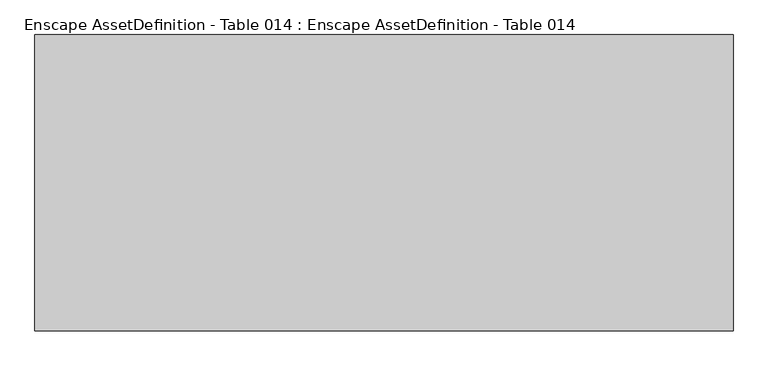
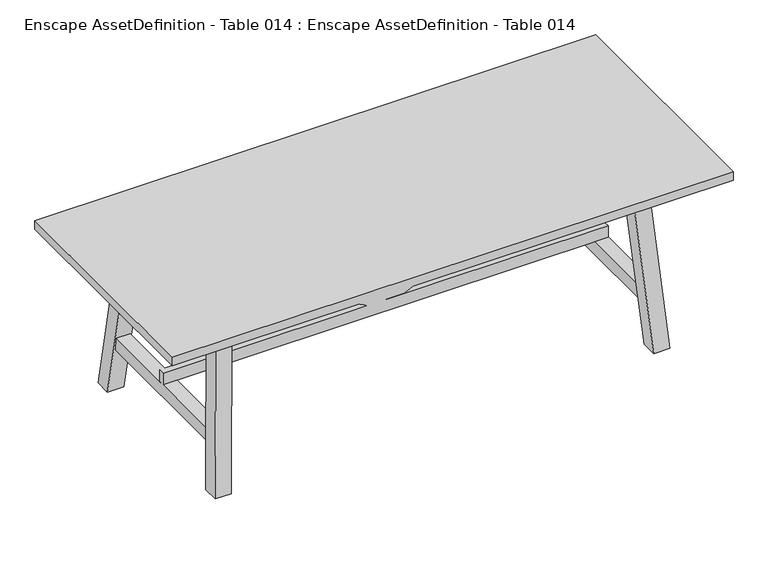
"""IFC4 building model written with IfcOpenShell, lengths in millimetres: geographic element geometry, Enscape AssetDefinition - Table 014 : Enscape AssetDefinition - Table 014."""

from ifc_helpers import new_model, si_unit, origin, place, context, project, spatial, triangles, source, transform, mapped, element, save


def enscape_assetdefinition_table_014_enscape_assetdefinition_37f53f77(model_context):
    return source(origin(), model_context, "Body", "Tessellation", [
        triangles([(-903.8760057, -277.0969853, 711.5399986), (-903.8760057, -345.0899826, 711.5399986), (-952.1109249, -356.0840063, 0.0), (-952.1109249, -424.0780028, 0.0), (-835.8760139, -277.0960042, 711.5399986), (-884.1110058, -356.0840063, 0.0), (-884.1110058, -424.0780028, 0.0), (-835.8760139, -345.0899826, 711.5399986), (-840.808053, -275.0900039, 711.5399986), (-840.808053, -280.4459996, 660.9970081), (-898.8079285, -280.4459996, 660.9970081), (-840.808053, 280.4459996, 660.9970081), (-898.8079285, -275.0900039, 711.5399986), (-898.8079285, 275.0900039, 711.5399986), (-898.8079285, 280.4459996, 660.9970081), (-840.808053, 275.0900039, 711.5399986), (-931.5799833, -326.428004, 248.8339939), (-931.5799833, -332.7079986, 192.5469862), (-931.5799833, 332.7079986, 192.5469862), (-873.5799625, 332.7079986, 192.5469862), (-873.5799625, -332.7079986, 192.5469862), (-873.5799625, -326.428004, 248.8339939), (-931.5799833, 326.428004, 248.8339939), (-873.5799625, 326.428004, 248.8339939), (-884.1110058, 356.0840063, 0.0), (-835.8760139, 277.0960042, 711.5399986), (-903.8760057, 277.0960042, 711.5399986), (-903.8760057, 345.0899826, 711.5399986), (-952.1109249, 424.0780028, 0.0), (-952.1109249, 356.0840063, 0.0), (-835.8760139, 345.0899826, 711.5399986), (-884.1110058, 424.0780028, 0.0), (884.1120232, -356.0840063, 0.0), (903.8760057, -277.0969853, 711.5399986), (952.1109249, -424.0780028, 0.0), (952.1109249, -356.0840063, 0.0), (884.1120232, -424.0780028, 0.0), (835.8760139, -277.0960042, 711.5399986), (903.8760057, -345.0899826, 711.5399986), (835.8760139, -345.0899826, 711.5399986), (898.8079285, -275.0900039, 711.5399986), (840.808053, 275.0900039, 711.5399986), (840.808053, -280.4459996, 660.9970081), (898.8079285, 280.4459996, 660.9970081), (898.8079285, -280.4459996, 660.9970081), (840.808053, -275.0900039, 711.5399986), (840.808053, 280.4459996, 660.9970081), (898.8079285, 275.0900039, 711.5399986), (873.5809799, -332.7079986, 192.5469862), (931.5799833, -326.428004, 248.8339939), (931.5799833, -332.7079986, 192.5469862), (873.5809799, -326.428004, 248.8339939), (873.5809799, 326.428004, 248.8339939), (873.5809799, 332.7079986, 192.5469862), (931.5799833, 326.428004, 248.8339939), (931.5799833, 332.7079986, 192.5469862), (835.8760139, 277.0960042, 711.5399986), (884.1120232, 356.0840063, 0.0), (903.8760057, 277.0960042, 711.5399986), (903.8760057, 345.0899826, 711.5399986), (835.8760139, 345.0899826, 711.5399986), (884.1120232, 424.0780028, 0.0), (952.1109249, 356.0840063, 0.0), (952.1109249, 424.0780028, 0.0), (-73.2290013, -11.4999987, 299.4799941), (-803.4239977, 11.4999987, 711.5280081), (0.0, 11.4999987, 332.0199955), (0.0, 11.7499993, 299.3779836), (-73.2290013, 11.4999987, 299.4799941), (-838.8079571, 11.4999987, 711.2320232), (-838.8509777, 11.4999987, 660.9059526), (-838.8079571, -11.4999987, 711.2320232), (-803.4239977, -11.4999987, 711.5280081), (803.4239977, -11.4999987, 711.5280081), (803.4239977, 11.4999987, 711.5280081), (0.0, -11.4999987, 332.0199955), (0.0, -11.7499993, 299.3779836), (-838.8509777, -11.4999987, 660.9059526), (838.8079571, -11.4999987, 711.2320232), (838.8079571, 11.4999987, 711.2320232), (838.8509777, 11.4999987, 660.9059526), (838.8509777, -11.4999987, 660.9059526), (73.2300005, -11.4999987, 299.4799941), (73.2300005, 11.4999987, 299.4799941), (-1173.4999552, -498.49995, 750.0000057), (1173.4999552, -498.49995, 711.4999575), (1173.4999552, 498.49995, 711.4999575), (1173.4999552, -498.49995, 750.0000057), (1173.4999552, 498.49995, 750.0000057), (-1173.4999552, 498.49995, 711.4999575), (-1173.4999552, 498.49995, 750.0000057), (-1173.4999552, -498.49995, 711.4999575), (-931.5799833, -11.6250001, 299.3779836), (-931.5799833, 11.4999987, 248.8339939), (-931.5799833, 11.4999987, 299.3779836), (-931.5799833, -11.6250001, 248.8339939), (931.5799833, -11.6250001, 299.3779836), (931.5799833, 11.4999987, 299.3779836), (931.5799833, -11.6250001, 248.8339939), (931.5799833, 11.4999987, 248.8339939)], [[97, 99, 100], [100, 98, 97], [95, 98, 100], [97, 98, 95], [99, 97, 93], [95, 93, 97], [93, 96, 99], [100, 94, 95], [99, 96, 94], [94, 100, 99], [93, 95, 94], [94, 96, 93], [87, 86, 92], [92, 90, 87], [91, 90, 92], [90, 91, 89], [89, 87, 90], [87, 89, 88], [88, 86, 87], [92, 85, 91], [86, 88, 85], [85, 92, 86], [89, 91, 85], [85, 88, 89], [84, 81, 82], [80, 81, 84], [82, 83, 84], [79, 82, 81], [81, 80, 79], [83, 82, 79], [74, 79, 80], [84, 83, 77], [77, 79, 74], [79, 77, 83], [69, 65, 78], [78, 71, 69], [71, 78, 72], [72, 78, 65], [65, 77, 72], [73, 72, 77], [77, 76, 73], [74, 76, 77], [80, 75, 74], [76, 74, 75], [75, 67, 76], [66, 73, 76], [76, 67, 66], [69, 71, 70], [73, 66, 70], [70, 72, 73], [72, 70, 71], [77, 68, 84], [70, 68, 69], [75, 80, 68], [68, 67, 75], [66, 67, 68], [68, 70, 66], [84, 68, 80], [65, 69, 68], [68, 77, 65], [61, 60, 64], [64, 62, 61], [62, 64, 63], [61, 62, 58], [63, 58, 62], [60, 61, 57], [58, 57, 61], [64, 60, 59], [59, 63, 64], [57, 59, 60], [58, 63, 59], [59, 57, 58], [55, 56, 54], [54, 53, 55], [52, 53, 54], [55, 53, 52], [56, 55, 50], [52, 50, 55], [50, 51, 56], [54, 49, 52], [56, 51, 49], [49, 54, 56], [50, 52, 49], [49, 51, 50], [48, 44, 47], [47, 42, 48], [48, 42, 46], [46, 41, 48], [48, 41, 45], [45, 44, 48], [42, 47, 43], [43, 46, 42], [44, 45, 43], [43, 47, 44], [41, 46, 43], [43, 45, 41], [40, 37, 35], [35, 39, 40], [38, 40, 39], [40, 38, 33], [33, 37, 40], [37, 33, 36], [36, 35, 37], [35, 36, 34], [34, 39, 35], [39, 34, 38], [33, 38, 34], [34, 36, 33], [31, 32, 29], [29, 28, 31], [26, 31, 28], [31, 26, 25], [25, 32, 31], [32, 25, 30], [30, 29, 32], [29, 30, 27], [27, 28, 29], [28, 27, 26], [25, 26, 27], [27, 30, 25], [23, 24, 20], [20, 19, 23], [19, 18, 17], [17, 23, 19], [20, 24, 22], [22, 24, 23], [23, 17, 22], [22, 21, 20], [19, 20, 21], [21, 18, 19], [17, 18, 21], [21, 22, 17], [14, 16, 12], [12, 15, 14], [14, 15, 11], [11, 13, 14], [9, 16, 14], [14, 13, 9], [16, 9, 10], [10, 12, 16], [15, 12, 10], [10, 11, 15], [13, 11, 10], [10, 9, 13], [8, 2, 4], [4, 7, 8], [7, 4, 3], [8, 7, 6], [3, 6, 7], [2, 8, 5], [6, 5, 8], [4, 2, 1], [1, 3, 4], [5, 1, 2], [6, 3, 1], [1, 5, 6]]),
    ])


if __name__ == "__main__":
    model = new_model("IFC4")
    model_context = context("Model", 3, world=origin())
    ifc_project = project(units=[si_unit("LENGTHUNIT", "METRE", prefix="MILLI")], contexts=[model_context])
    site = spatial("IfcSite", under=ifc_project)
    building = spatial("IfcBuilding", under=site)
    placement = place(None, origin())
    enscape_assetdefinition_table_014_enscape_assetdefinition_shape = enscape_assetdefinition_table_014_enscape_assetdefinition_37f53f77(model_context)
    element("IfcGeographicElement", 1, ObjectType="Enscape AssetDefinition - Table 014 : Enscape AssetDefinition - Table 014", at=placement, inside=building, context=model_context, shape_type="MappedRepresentation", body=[
        mapped(enscape_assetdefinition_table_014_enscape_assetdefinition_shape, transform((0.0, 0.0, 0.0), x_axis=(1.0, 0.0, 0.0), y_axis=(0.0, 1.0, 0.0), z_axis=(0.0, 0.0, 1.0))),
    ])
    save(model, "model.ifc")
